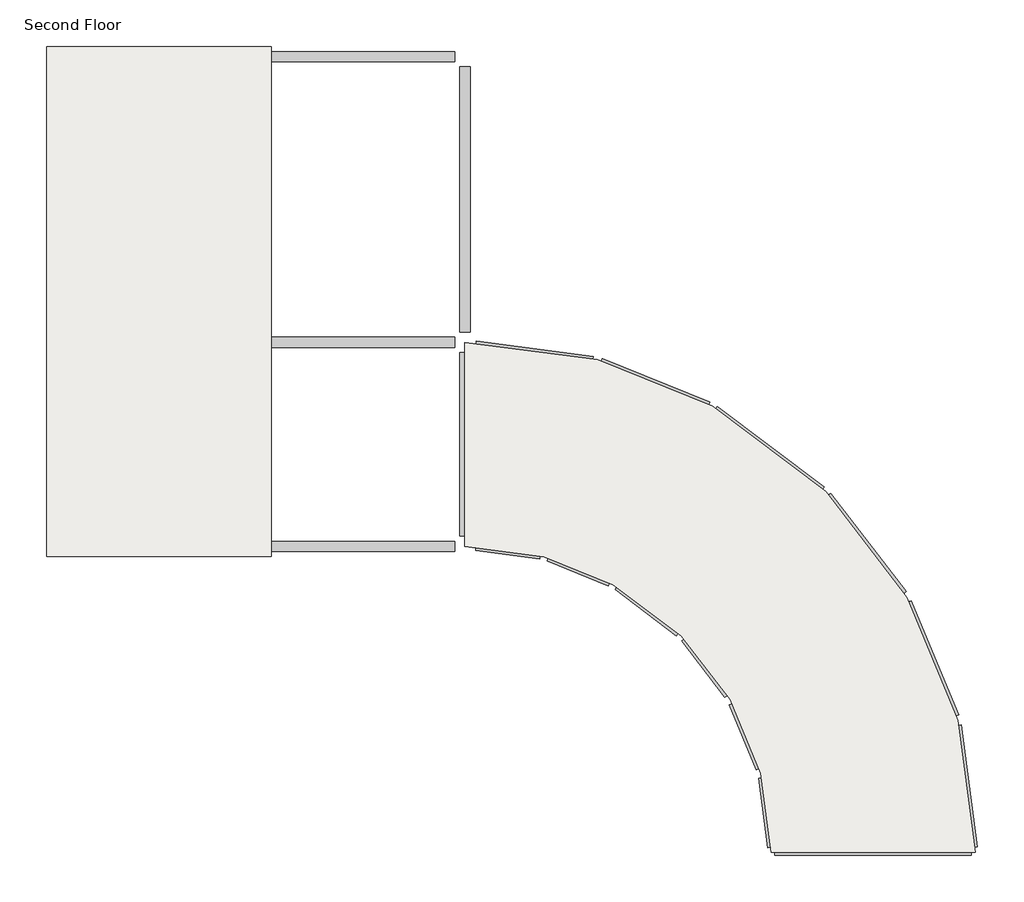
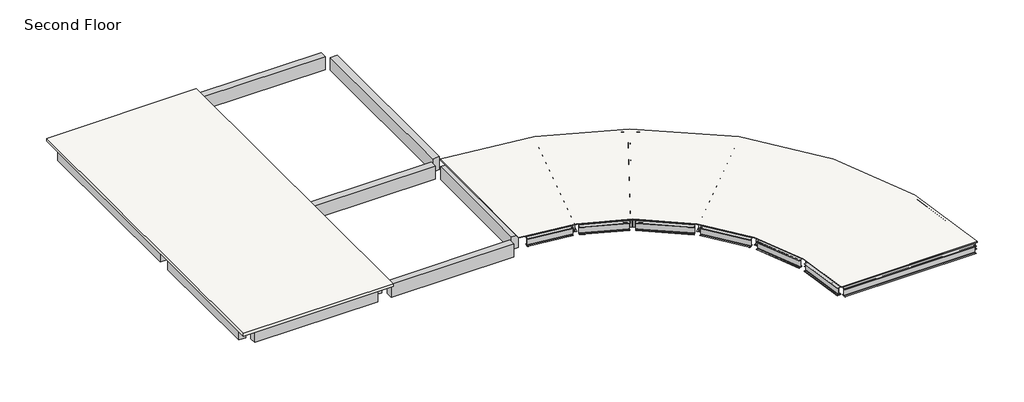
# One storey: 30 beams, 2 slabs.
"""IFC4 building model written with IfcOpenShell, lengths in millimetres."""

from ifc_helpers import new_model, si_unit, frame, origin, place, context, project, spatial, polyline, outline, extrude, faceted_brep, transform, mapped, element, save
from components import w_wide_flange_w14x30_ff084ddf, w_wide_flange_w14x30_12b98172, w_wide_flange_w14x30_d1529a52, w_wide_flange_w14x30_957304bb, w_wide_flange_w14x30_791045be, w_wide_flange_w14x30_6e165613, w_wide_flange_w14x30_5bdec823, w_wide_flange_w14x30_2022d981, w_wide_flange_w14x30_3de07e4c, w_wide_flange_w14x30_6ec3b930, w_wide_flange_w14x30_5e2f6a80, w_wide_flange_w14x30_c79a449a

model = new_model("IFC4")

# Units and contexts
model_context = context("Model", 3, world=origin())
ifc_project = project(units=[si_unit("LENGTHUNIT", "METRE", prefix="MILLI")], contexts=[model_context])

# Site, building, storey
site = spatial("IfcSite", under=ifc_project)
building = spatial("IfcBuilding", under=site)
storey = spatial("IfcBuildingStorey", under=building, Name="Second Floor", Elevation=3048.0)

# Beams
placement = place(None, origin())
element("IfcBeam", 1, ObjectType="Concrete-Rectangular Beam : 12 x 24", at=placement, inside=storey, context=model_context, shape_type="SweptSolid", body=[
    extrude(outline(polyline([(-26717.2148109, 13379.849478), (-26717.2148109, 13075.049478), (-32203.6148109, 13075.049478), (-32203.6148109, 13379.849478), (-26717.2148109, 13379.849478)])), frame((0.0, 0.0, 2438.4), z_axis=(0.0, 0.0, 1.0), x_axis=(1.0, 0.0, 0.0)), (0.0, 0.0, 1.0), 609.6),
])
element("IfcBeam", 2, ObjectType="Concrete-Rectangular Beam : 12 x 24", at=placement, inside=storey, context=model_context, shape_type="SweptSolid", body=[
    extrude(outline(polyline([(-32813.2148109, 13379.849478), (-32813.2148109, 13075.049478), (-38299.6148109, 13075.049478), (-38299.6148109, 13379.849478), (-32813.2148109, 13379.849478)])), frame((0.0, 0.0, 2438.4), z_axis=(0.0, 0.0, 1.0), x_axis=(1.0, 0.0, 0.0)), (0.0, 0.0, 1.0), 609.6),
])
element("IfcBeam", 3, ObjectType="Concrete-Rectangular Beam : 12 x 24", at=placement, inside=storey, context=model_context, shape_type="SweptSolid", body=[
    extrude(outline(polyline([(-26717.2148109, -1250.550522), (-26717.2148109, -1555.350522), (-32203.6148109, -1555.350522), (-32203.6148109, -1250.550522), (-26717.2148109, -1250.550522)])), frame((0.0, 0.0, 2438.4), z_axis=(0.0, 0.0, 1.0), x_axis=(1.0, 0.0, 0.0)), (0.0, 0.0, 1.0), 609.6),
])
element("IfcBeam", 4, ObjectType="Concrete-Rectangular Beam : 12 x 24", at=placement, inside=storey, context=model_context, shape_type="SweptSolid", body=[
    extrude(outline(polyline([(-32813.2148109, -1250.550522), (-32813.2148109, -1555.350522), (-38299.6148109, -1555.350522), (-38299.6148109, -1250.550522), (-32813.2148109, -1250.550522)])), frame((0.0, 0.0, 2438.4), z_axis=(0.0, 0.0, 1.0), x_axis=(1.0, 0.0, 0.0)), (0.0, 0.0, 1.0), 609.6),
])
element("IfcBeam", 5, ObjectType="Concrete-Rectangular Beam : 12 x 24", at=placement, inside=storey, context=model_context, shape_type="SweptSolid", body=[
    extrude(outline(polyline([(-26717.2148109, 4845.449478), (-26717.2148109, 4540.649478), (-32203.6148109, 4540.649478), (-32203.6148109, 4845.449478), (-26717.2148109, 4845.449478)])), frame((0.0, 0.0, 2438.4), z_axis=(0.0, 0.0, 1.0), x_axis=(1.0, 0.0, 0.0)), (0.0, 0.0, 1.0), 609.6),
])
element("IfcBeam", 6, ObjectType="Concrete-Rectangular Beam : 12 x 24", at=placement, inside=storey, context=model_context, shape_type="SweptSolid", body=[
    extrude(outline(polyline([(-32813.2148109, 4845.449478), (-32813.2148109, 4540.649478), (-38299.6148109, 4540.649478), (-38299.6148109, 4845.449478), (-32813.2148109, 4845.449478)])), frame((0.0, 0.0, 2438.4), z_axis=(0.0, 0.0, 1.0), x_axis=(1.0, 0.0, 0.0)), (0.0, 0.0, 1.0), 609.6),
])
element("IfcBeam", 7, ObjectType="Concrete-Rectangular Beam : 12 x 24", at=placement, inside=storey, context=model_context, shape_type="SweptSolid", body=[
    extrude(outline(polyline([(-26260.0148109, -1098.150522), (-26564.8148109, -1098.150522), (-26564.8148109, 4388.249478), (-26260.0148109, 4388.249478), (-26260.0148109, -1098.150522)])), frame((0.0, 0.0, 2438.4), z_axis=(0.0, 0.0, 1.0), x_axis=(1.0, 0.0, 0.0)), (0.0, 0.0, 1.0), 609.6),
])
element("IfcBeam", 8, ObjectType="Concrete-Rectangular Beam : 12 x 24", at=placement, inside=storey, context=model_context, shape_type="SweptSolid", body=[
    extrude(outline(polyline([(-26260.0148109, 4997.849478), (-26564.8148109, 4997.849478), (-26564.8148109, 12922.649478), (-26260.0148109, 12922.649478), (-26260.0148109, 4997.849478)])), frame((0.0, 0.0, 2438.4), z_axis=(0.0, 0.0, 1.0), x_axis=(1.0, 0.0, 0.0)), (0.0, 0.0, 1.0), 609.6),
])
element("IfcBeam", 9, ObjectType="Concrete-Rectangular Beam : 12 x 24", at=placement, inside=storey, context=model_context, shape_type="SweptSolid", body=[
    extrude(outline(polyline([(-32356.0148109, -1098.150522), (-32660.8148109, -1098.150522), (-32660.8148109, 4388.249478), (-32356.0148109, 4388.249478), (-32356.0148109, -1098.150522)])), frame((0.0, 0.0, 2438.4), z_axis=(0.0, 0.0, 1.0), x_axis=(1.0, 0.0, 0.0)), (0.0, 0.0, 1.0), 609.6),
])
element("IfcBeam", 10, ObjectType="Concrete-Rectangular Beam : 12 x 24", at=placement, inside=storey, context=model_context, shape_type="SweptSolid", body=[
    extrude(outline(polyline([(-32356.0148109, 4997.849478), (-32660.8148109, 4997.849478), (-32660.8148109, 12922.649478), (-32356.0148109, 12922.649478), (-32356.0148109, 4997.849478)])), frame((0.0, 0.0, 2438.4), z_axis=(0.0, 0.0, 1.0), x_axis=(1.0, 0.0, 0.0)), (0.0, 0.0, 1.0), 609.6),
])
element("IfcBeam", 11, ObjectType="Concrete-Rectangular Beam : 12 x 24", at=placement, inside=storey, context=model_context, shape_type="SweptSolid", body=[
    extrude(outline(polyline([(-38452.0148109, -1098.150522), (-38756.8148109, -1098.150522), (-38756.8148109, 4388.249478), (-38452.0148109, 4388.249478), (-38452.0148109, -1098.150522)])), frame((0.0, 0.0, 2438.4), z_axis=(0.0, 0.0, 1.0), x_axis=(1.0, 0.0, 0.0)), (0.0, 0.0, 1.0), 609.6),
])
element("IfcBeam", 12, ObjectType="Concrete-Rectangular Beam : 12 x 24", at=placement, inside=storey, context=model_context, shape_type="SweptSolid", body=[
    extrude(outline(polyline([(-38452.0148109, 4997.849478), (-38756.8148109, 4997.849478), (-38756.8148109, 12922.649478), (-38452.0148109, 12922.649478), (-38452.0148109, 4997.849478)])), frame((0.0, 0.0, 2438.4), z_axis=(0.0, 0.0, 1.0), x_axis=(1.0, 0.0, 0.0)), (0.0, 0.0, 1.0), 609.6),
])
w_wide_flange_w14x30_shape = w_wide_flange_w14x30_ff084ddf(model_context)
element("IfcBeam", 13, ObjectType="W-Wide Flange : W14X30", at=placement, inside=storey, context=model_context, shape_type="MappedRepresentation", body=[
    mapped(w_wide_flange_w14x30_shape, transform((-23256.893013, 1229.6171521, 2872.74), x_axis=(0.2588190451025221, 0.9659258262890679, 0.0), y_axis=(-0.9659258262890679, 0.2588190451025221, 0.0), z_axis=(0.0, 0.0, 1.0))),
])
element("IfcBeam", 14, ObjectType="W-Wide Flange : W14X30", at=placement, inside=storey, context=model_context, shape_type="MappedRepresentation", body=[
    mapped(w_wide_flange_w14x30_shape, transform((-20501.6159208, 116.4129475, 2872.74), x_axis=(0.48480962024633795, 0.8746197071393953, 0.0), y_axis=(-0.8746197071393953, 0.48480962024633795, 0.0), z_axis=(0.0, 0.0, 1.0))),
])
element("IfcBeam", 15, ObjectType="W-Wide Flange : W14X30", at=placement, inside=storey, context=model_context, shape_type="MappedRepresentation", body=[
    mapped(w_wide_flange_w14x30_shape, transform((-17791.3689346, -1925.9046457, 2872.74), x_axis=(0.7071067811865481, 0.7071067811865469, 0.0), y_axis=(-0.7071067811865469, 0.7071067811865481, 0.0), z_axis=(0.0, 0.0, 1.0))),
])
w_wide_flange_w14x30_2_shape = w_wide_flange_w14x30_12b98172(model_context)
element("IfcBeam", 16, ObjectType="W-Wide Flange : W14X30", at=placement, inside=storey, context=model_context, shape_type="MappedRepresentation", body=[
    mapped(w_wide_flange_w14x30_2_shape, transform((-15853.8330879, -4450.950522, 2872.74), x_axis=(0.8660254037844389, 0.49999999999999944, 0.0), y_axis=(-0.49999999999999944, 0.8660254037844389, 0.0), z_axis=(0.0, 0.0, 1.0))),
])
element("IfcBeam", 17, ObjectType="W-Wide Flange : W14X30", at=placement, inside=storey, context=model_context, shape_type="MappedRepresentation", body=[
    mapped(w_wide_flange_w14x30_2_shape, transform((-14635.8471368, -7391.4287241, 2872.74), x_axis=(0.9659258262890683, 0.2588190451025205, 0.0), y_axis=(-0.2588190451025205, 0.9659258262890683, 0.0), z_axis=(0.0, 0.0, 1.0))),
])
element("IfcBeam", 18, ObjectType="W-Wide Flange : W14X30", at=placement, inside=storey, context=model_context, shape_type="MappedRepresentation", body=[
    mapped(w_wide_flange_w14x30_2_shape, transform((-14220.4148109, -10546.950522, 2872.74), x_axis=(1.0, 0.0, 0.0), y_axis=(0.0, 1.0, 0.0), z_axis=(0.0, 0.0, 1.0))),
])
w_wide_flange_w14x30_3_shape = w_wide_flange_w14x30_d1529a52(model_context)
element("IfcBeam", 19, ObjectType="W-Wide Flange : W14X30", at=placement, inside=storey, context=model_context, shape_type="MappedRepresentation", body=[
    mapped(w_wide_flange_w14x30_3_shape, transform((-25229.0941367, -1558.7376442, 2872.74), x_axis=(0.9914448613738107, -0.13052619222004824, 0.0), y_axis=(0.13052619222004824, 0.9914448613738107, 0.0), z_axis=(0.0, 0.0, 1.0))),
])
w_wide_flange_w14x30_4_shape = w_wide_flange_w14x30_957304bb(model_context)
element("IfcBeam", 20, ObjectType="W-Wide Flange : W14X30", at=placement, inside=storey, context=model_context, shape_type="MappedRepresentation", body=[
    mapped(w_wide_flange_w14x30_4_shape, transform((-23012.5445529, -2131.9763431, 2872.74), x_axis=(0.9271838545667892, -0.3746065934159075, 0.0), y_axis=(0.3746065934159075, 0.9271838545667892, 0.0), z_axis=(0.0, 0.0, 1.0))),
])
w_wide_flange_w14x30_5_shape = w_wide_flange_w14x30_791045be(model_context)
element("IfcBeam", 21, ObjectType="W-Wide Flange : W14X30", at=placement, inside=storey, context=model_context, shape_type="MappedRepresentation", body=[
    mapped(w_wide_flange_w14x30_5_shape, transform((-20962.9730235, -3315.2970173, 2872.74), x_axis=(0.7986355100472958, -0.6018150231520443, 0.0), y_axis=(0.6018150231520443, 0.7986355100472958, 0.0), z_axis=(0.0, 0.0, 1.0))),
])
w_wide_flange_w14x30_6_shape = w_wide_flange_w14x30_6e165613(model_context)
element("IfcBeam", 22, ObjectType="W-Wide Flange : W14X30", at=placement, inside=storey, context=model_context, shape_type="MappedRepresentation", body=[
    mapped(w_wide_flange_w14x30_6_shape, transform((-19220.0544612, -5028.0583184, 2872.74), x_axis=(0.6087614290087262, -0.793353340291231, 0.0), y_axis=(0.793353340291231, 0.6087614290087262, 0.0), z_axis=(0.0, 0.0, 1.0))),
])
w_wide_flange_w14x30_7_shape = w_wide_flange_w14x30_5bdec823(model_context)
element("IfcBeam", 23, ObjectType="W-Wide Flange : W14X30", at=placement, inside=storey, context=model_context, shape_type="MappedRepresentation", body=[
    mapped(w_wide_flange_w14x30_7_shape, transform((-18036.733787, -7077.6298478, 2872.74), x_axis=(0.38268343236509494, -0.9238795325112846, 0.0), y_axis=(0.9238795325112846, 0.38268343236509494, 0.0), z_axis=(0.0, 0.0, 1.0))),
])
element("IfcBeam", 24, ObjectType="W-Wide Flange : W14X30", at=placement, inside=storey, context=model_context, shape_type="MappedRepresentation", body=[
    mapped(w_wide_flange_w14x30_7_shape, transform((-17424.2019331, -9363.6298478, 2872.74), x_axis=(0.13052619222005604, -0.9914448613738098, 0.0), y_axis=(0.9914448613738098, 0.13052619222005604, 0.0), z_axis=(0.0, 0.0, 1.0))),
])
w_wide_flange_w14x30_8_shape = w_wide_flange_w14x30_2022d981(model_context)
element("IfcBeam", 25, ObjectType="W-Wide Flange : W14X30", at=placement, inside=storey, context=model_context, shape_type="MappedRepresentation", body=[
    mapped(w_wide_flange_w14x30_8_shape, transform((-24440.2136872, 4433.4042743, 2872.74), x_axis=(0.9914448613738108, -0.130526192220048, 0.0), y_axis=(0.130526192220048, 0.9914448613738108, 0.0), z_axis=(0.0, 0.0, 1.0))),
])
w_wide_flange_w14x30_9_shape = w_wide_flange_w14x30_3de07e4c(model_context)
element("IfcBeam", 26, ObjectType="W-Wide Flange : W14X30", at=placement, inside=storey, context=model_context, shape_type="MappedRepresentation", body=[
    mapped(w_wide_flange_w14x30_9_shape, transform((-20745.9643809, 3478.0064427, 2872.74), x_axis=(0.9271838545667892, -0.3746065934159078, 0.0), y_axis=(0.3746065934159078, 0.9271838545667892, 0.0), z_axis=(0.0, 0.0, 1.0))),
])
w_wide_flange_w14x30_10_shape = w_wide_flange_w14x30_6ec3b930(model_context)
element("IfcBeam", 27, ObjectType="W-Wide Flange : W14X30", at=placement, inside=storey, context=model_context, shape_type="MappedRepresentation", body=[
    mapped(w_wide_flange_w14x30_10_shape, transform((-17330.011832, 1505.8053191, 2872.74), x_axis=(0.798635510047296, -0.6018150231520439, 0.0), y_axis=(0.6018150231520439, 0.798635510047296, 0.0), z_axis=(0.0, 0.0, 1.0))),
])
w_wide_flange_w14x30_11_shape = w_wide_flange_w14x30_5e2f6a80(model_context)
element("IfcBeam", 28, ObjectType="W-Wide Flange : W14X30", at=placement, inside=storey, context=model_context, shape_type="MappedRepresentation", body=[
    mapped(w_wide_flange_w14x30_11_shape, transform((-14425.1475614, -1348.7968493, 2872.74), x_axis=(0.608761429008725, -0.7933533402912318, 0.0), y_axis=(0.7933533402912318, 0.608761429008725, 0.0), z_axis=(0.0, 0.0, 1.0))),
])
w_wide_flange_w14x30_12_shape = w_wide_flange_w14x30_c79a449a(model_context)
element("IfcBeam", 29, ObjectType="W-Wide Flange : W14X30", at=placement, inside=storey, context=model_context, shape_type="MappedRepresentation", body=[
    mapped(w_wide_flange_w14x30_12_shape, transform((-12452.9464377, -4764.7493983, 2872.74), x_axis=(0.38268343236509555, -0.9238795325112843, 0.0), y_axis=(0.9238795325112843, 0.38268343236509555, 0.0), z_axis=(0.0, 0.0, 1.0))),
])
element("IfcBeam", 30, ObjectType="W-Wide Flange : W14X30", at=placement, inside=storey, context=model_context, shape_type="MappedRepresentation", body=[
    mapped(w_wide_flange_w14x30_12_shape, transform((-11432.0600145, -8574.7493983, 2872.74), x_axis=(0.13052619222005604, -0.9914448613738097, 0.0), y_axis=(0.9914448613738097, 0.13052619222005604, 0.0), z_axis=(0.0, 0.0, 1.0))),
])

# Slabs
element("IfcSlab", 31, ObjectType="1 1/2\" Metal Roof Deck", at=placement, inside=storey, context=model_context, shape_type="SweptSolid", body=[
    extrude(outline(polyline([(-26412.4148109, 4693.049478), (-22468.0125635, 4173.7590707), (-19023.9161983, 2782.2538148), (-15636.1074656, 229.3568233), (-13214.1876572, -2926.950522), (-11691.7052182, -6602.5482746), (-11172.4148109, -10546.950522), (-17268.4148109, -10546.950522), (-17579.9890553, -8180.3091736), (-18493.4785187, -5974.950522), (-19946.6304037, -4081.1661148), (-21979.3156433, -2549.4279199), (-24045.7734625, -1714.5247664), (-26412.4148109, -1402.950522), (-26412.4148109, 4693.049478)])), frame((0.0, 0.0, 3130.55), z_axis=(0.0, 0.0, 1.0), x_axis=(1.0, 0.0, 0.0)), (0.0, 0.0, 1.0), 38.1),
])
element("IfcSlab", 32, ObjectType="LW Concrete on Metal Deck", at=placement, inside=storey, context=model_context, shape_type="Brep", body=[
    faceted_brep([(-32203.6148109, 13532.249478, 3048.0), (-32203.6148109, 12922.649478, 3048.0), (-32203.6148109, 4997.849478, 3048.0), (-32203.6148109, 4388.249478, 3048.0), (-32203.6148109, -1098.150522, 3048.0), (-32203.6148109, -1707.750522, 3048.0), (-32813.2148109, -1707.750522, 3048.0), (-38299.6148109, -1707.750522, 3048.0), (-38909.2148109, -1707.750522, 3048.0), (-38909.2148109, -1098.150522, 3048.0), (-38909.2148109, 4388.249478, 3048.0), (-38909.2148109, 4997.849478, 3048.0), (-38909.2148109, 12922.649478, 3048.0), (-38909.2148109, 13532.249478, 3048.0), (-38299.6148109, 13532.249478, 3048.0), (-32813.2148109, 13532.249478, 3048.0), (-32203.6148109, 13532.249478, 3168.65), (-38909.2148109, 13532.249478, 3168.65), (-38909.2148109, -1707.750522, 3168.65), (-32203.6148109, -1707.750522, 3168.65)], [[[0, 1, 2, 3, 4, 5, 6, 7, 8, 9, 10, 11, 12, 13, 14, 15]], [[16, 17, 18, 19]], [[5, 4, 3, 2, 1, 0, 16, 19]], [[8, 7, 6, 5, 19, 18]], [[13, 12, 11, 10, 9, 8, 18, 17]], [[0, 15, 14, 13, 17, 16]]]),
])

save(model, "model.ifc")
